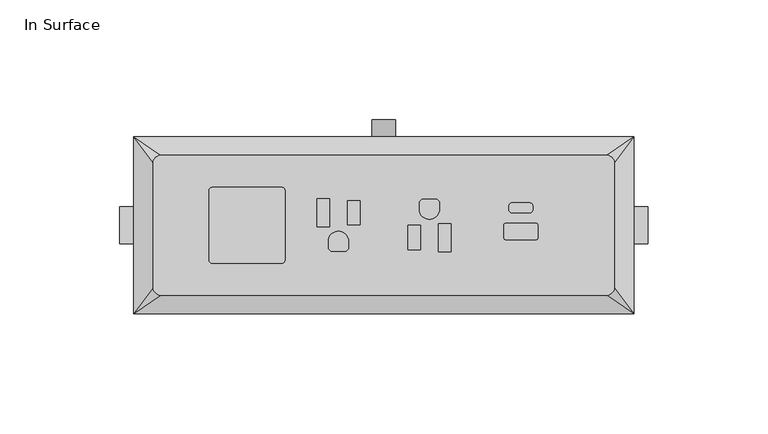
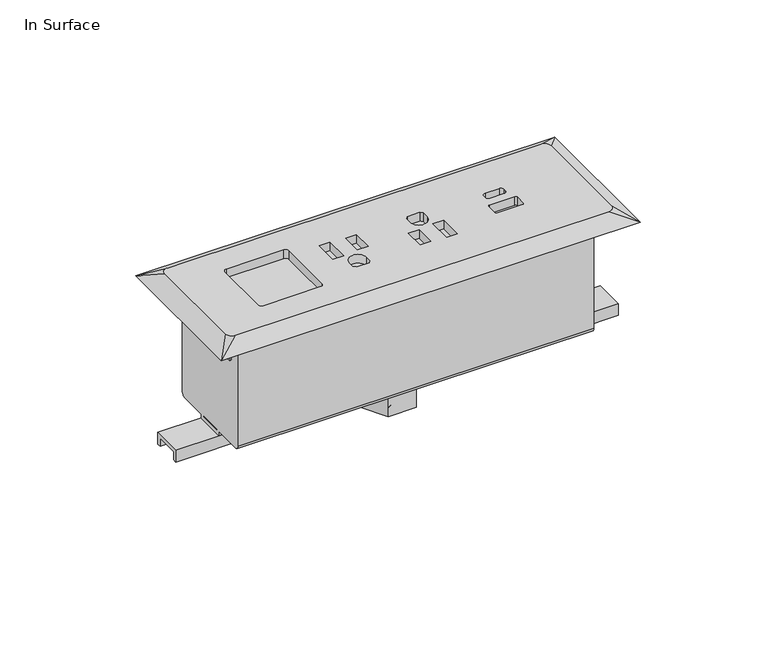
"""IFC4 building model written with IfcOpenShell, lengths in millimetres: furniture geometry, Geiger_GeigerOneCasegoods_PowerComponent2PowerOutlets1USBA1USBC : In Surface."""

from ifc_helpers import new_model, si_unit, point, frame, frame_2d, origin, origin_with_axes, place, context, project, spatial, polyline, circle_curve, ellipse_curve, trimmed, segment, composite_curve, outline, extrude, source, transform, mapped, element, save
from ifc_brep_helpers import plane_surface, cylinder_surface, revolved_surface, spline_surface, advanced_brep


def in_surface_33791ff7(model_context):
    return source(origin(), model_context, "Body", "SolidModel", [
        advanced_brep(
        [(-4.8401847, 44.0, -88.0269858), (4.8401847, 44.0, -88.0269858), (-4.8401847, 19.05, -88.0269858), (4.8401847, 19.05, -88.0269858), (-4.8401847, 0.0, -68.9769858), (4.8401847, 0.0, -68.9769858)],
        [
            (0, 1, circle_curve(frame((0.0, 44.0, -88.0269858), z_axis=(0.0, 1.0, 0.0), x_axis=(1.0, 0.0, 0.0)), 4.8401847)),
            (1, 0, circle_curve(frame((0.0, 44.0, -88.0269858), z_axis=(0.0, 1.0, 0.0), x_axis=(1.0, 0.0, 0.0)), 4.8401847)),
            (0, 2),
            (2, 3, circle_curve(frame((0.0, 19.05, -88.0269858), z_axis=(0.0, 1.0, 0.0), x_axis=(1.0, 0.0, 0.0)), 4.8401847)),
            (3, 1),
            (3, 2, circle_curve(frame((0.0, 19.05, -88.0269858), z_axis=(0.0, 1.0, 0.0), x_axis=(1.0, 0.0, 0.0)), 4.8401847)),
            (4, 5, circle_curve(frame((0.0, 0.0, -68.9769858), z_axis=(0.0, 0.0, 1.0), x_axis=(1.0, 0.0, 0.0)), 4.8401847)),
            (5, 4, circle_curve(frame((0.0, 0.0, -68.9769858), z_axis=(0.0, 0.0, 1.0), x_axis=(1.0, 0.0, 0.0)), 4.8401847)),
            (5, 3, circle_curve(frame((4.8401847, 19.05, -68.9769858), z_axis=(1.0, 0.0, 0.0), x_axis=(0.0, 0.0, -1.0)), 19.05)),
            (2, 4, circle_curve(frame((-4.8401847, 19.05, -68.9769858), z_axis=(-1.0, 0.0, 0.0), x_axis=(0.0, 0.0, -1.0)), 19.05)),
        ],
        [
            plane_surface(frame((0.0, 44.0, -88.0269858), z_axis=(0.0, 1.0, 0.0), x_axis=(1.0, 0.0, 0.0))),
            cylinder_surface(frame((0.0, 44.0, -88.0269858), z_axis=(0.0, 1.0, 0.0), x_axis=(1.0, 0.0, 0.0)), 4.8401847),
            plane_surface(frame((0.0, 0.0, -68.9769858), z_axis=(0.0, 0.0, 1.0), x_axis=(1.0, 0.0, 0.0))),
            revolved_surface(trimmed(ellipse_curve(frame((0.0, 19.05, -88.0269858), z_axis=(0.0, 1.0, 0.0), x_axis=(1.0, 0.0, 0.0)), 4.8401847, 4.8401847), [point((-4.8401847, 19.05, -88.0269858))], [point((4.8401847, 19.05, -88.0269858))], True, "CARTESIAN"), (0.0, 19.05, -68.9769858), (-1.0, 0.0, 0.0)),
            revolved_surface(trimmed(ellipse_curve(frame((0.0, 19.05, -88.0269858), z_axis=(0.0, 1.0, 0.0), x_axis=(1.0, 0.0, 0.0)), 4.8401847, 4.8401847), [point((4.8401847, 19.05, -88.0269858))], [point((-4.8401847, 19.05, -88.0269858))], True, "CARTESIAN"), (0.0, 19.05, -68.9769858), (-1.0, 0.0, 0.0)),
        ],
        [
            (0, [[1, 2]]),
            (1, [[-1, 3, 4, 5]]),
            (1, [[-2, -5, 6, -3]]),
            (2, [[7, 8]]),
            (3, [[9, -4, 10, -8]]),
            (4, [[-10, -6, -9, -7]]),
        ],
    ),
        extrude(outline(polyline([(-13.931462, 0.0), (-6.965731, 12.065), (6.965731, 12.065), (13.931462, 0.0), (6.965731, -12.065), (-6.965731, -12.065), (-13.931462, 0.0)])), frame((0.0, 0.0, -78.5519858), z_axis=(0.0, 0.0, 1.0), x_axis=(1.0, 0.0, 0.0)), (0.0, 0.0, 1.0), 18.034),
        advanced_brep(
        [(88.7222, 23.8600261, -0.8910834), (88.7222, 22.5742479, -0.8910834), (88.7222, 22.0547838, 0.0), (88.7222, -22.0547838, 0.0), (88.7222, -22.5742479, -0.8910834), (88.7222, -23.8600261, -0.8910834), (88.7222, -23.8600261, -58.4735743), (88.7222, -21.8315885, -60.5020119), (88.7222, -7.5057, -60.5020119), (88.7222, -7.5057, -62.7277858), (88.7222, 7.5057, -62.7277858), (88.7222, 7.5057, -60.5020119), (88.7222, 21.8280261, -60.5020119), (88.7222, 23.8600261, -58.4700119), (88.7222, -5.6007, -60.5020119), (88.7222, 5.6007, -60.5020119), (88.7222, 5.6007, -60.8227858), (88.7222, -5.6007, -60.8227858), (-88.7222, 23.8600261, -0.8910834), (-88.7222, 23.8600261, -58.4700119), (-88.7222, 21.8280261, -60.5020119), (-88.7222, 7.5057, -60.5020119), (-88.7222, 7.5057, -62.7277858), (-88.7222, -7.5057, -62.7277858), (-88.7222, -7.5057, -60.5020119), (-88.7222, -21.8315885, -60.5020119), (-88.7222, -23.8600261, -58.4735743), (-88.7222, -23.8600261, -0.8910834), (-88.7222, -22.5742479, -0.8910834), (-88.7222, -22.0547838, 0.0), (-88.7222, 22.0547838, 0.0), (-88.7222, 22.5742479, -0.8910834), (-88.7222, -5.6007, -60.8227858), (-88.7222, 5.6007, -60.8227858), (-88.7222, 5.6007, -60.5020119), (-88.7222, -5.6007, -60.5020119), (-69.5452, -7.5057, -60.5020119), (-69.5452, -5.6007, -60.5020119), (-69.5452, 5.6007, -60.5020119), (-69.5452, 7.5057, -60.5020119), (69.5452, 7.5057, -60.5020119), (69.5452, 5.6007, -60.5020119), (69.5452, -5.6007, -60.5020119), (69.5452, -7.5057, -60.5020119), (-69.5452, -7.5057, -62.7277858), (-69.5452, 7.5057, -62.7277858), (-69.5452, 5.6007, -60.8227858), (-69.5452, -5.6007, -60.8227858), (69.5452, -5.6007, -60.8227858), (69.5452, 5.6007, -60.8227858), (69.5452, 7.5057, -62.7277858), (69.5452, -7.5057, -62.7277858)],
        [
            (0, 1),
            (1, 2),
            (2, 3),
            (3, 4),
            (4, 5),
            (5, 6),
            (6, 7, circle_curve(frame((88.7222, -21.8315885, -58.4735743), z_axis=(1.0, 0.0, 0.0), x_axis=(0.0, -1.0, 0.0)), 2.0284377)),
            (7, 8),
            (8, 9),
            (9, 10),
            (10, 11),
            (11, 12),
            (12, 13, circle_curve(frame((88.7222, 21.8280261, -58.4700119), z_axis=(1.0, 0.0, 0.0), x_axis=(0.0, -1.0, 0.0)), 2.032)),
            (13, 0),
            (14, 15),
            (15, 16),
            (16, 17),
            (17, 14),
            (18, 19),
            (19, 20, circle_curve(frame((-88.7222, 21.8280261, -58.4700119), z_axis=(-1.0, 0.0, 0.0), x_axis=(0.0, -1.0, 0.0)), 2.032)),
            (20, 21),
            (21, 22),
            (22, 23),
            (23, 24),
            (24, 25),
            (25, 26, circle_curve(frame((-88.7222, -21.8315885, -58.4735743), z_axis=(-1.0, 0.0, 0.0), x_axis=(0.0, -1.0, 0.0)), 2.0284377)),
            (26, 27),
            (27, 28),
            (28, 29),
            (29, 30),
            (30, 31),
            (31, 18),
            (32, 33),
            (33, 34),
            (34, 35),
            (35, 32),
            (0, 18),
            (31, 1),
            (30, 2),
            (29, 3),
            (28, 4),
            (27, 5),
            (26, 6),
            (25, 7),
            (24, 36),
            (36, 37),
            (37, 35),
            (34, 38),
            (38, 39),
            (39, 21),
            (20, 12),
            (11, 40),
            (40, 41),
            (41, 15),
            (14, 42),
            (42, 43),
            (43, 8),
            (19, 13),
            (44, 45),
            (45, 39),
            (38, 46),
            (46, 47),
            (47, 37),
            (36, 44),
            (22, 45),
            (44, 23),
            (33, 46),
            (32, 47),
            (48, 49),
            (49, 41),
            (40, 50),
            (50, 51),
            (51, 43),
            (42, 48),
            (9, 51),
            (50, 10),
            (49, 16),
            (48, 17),
        ],
        [
            plane_surface(frame((88.7222, 23.8600261, -0.8910834), z_axis=(1.0, 0.0, 0.0), x_axis=(0.0, -1.0, 0.0))),
            plane_surface(frame((-88.7222, 23.8600261, -0.8910834), z_axis=(-1.0, 0.0, 0.0), x_axis=(0.0, 1.0, 0.0))),
            plane_surface(frame((88.7222, 23.8600261, -0.8910834), z_axis=(0.0, 0.0, 1.0), x_axis=(-1.0, 0.0, 0.0))),
            plane_surface(frame((88.7222, 22.5742479, -0.8910834), z_axis=(0.0, 0.8639200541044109, 0.5036289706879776), x_axis=(-1.0, 0.0, 0.0))),
            plane_surface(frame((88.7222, 22.0547838, 0.0), z_axis=(0.0, 0.0, 1.0), x_axis=(-1.0, 0.0, 0.0))),
            plane_surface(frame((88.7222, -22.0547838, 0.0), z_axis=(0.0, -0.8639200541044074, 0.5036289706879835), x_axis=(-1.0, 0.0, 0.0))),
            plane_surface(frame((88.7222, -22.5742479, -0.8910834), z_axis=(0.0, 0.0, 1.0), x_axis=(-1.0, 0.0, 0.0))),
            plane_surface(frame((88.7222, -23.8600261, -0.8910834), z_axis=(0.0, -1.0, 0.0), x_axis=(-1.0, 0.0, 0.0))),
            cylinder_surface(frame((-88.7222, -21.8315885, -58.4735743), z_axis=(1.0, 0.0, 0.0), x_axis=(0.0, -1.0, 0.0)), 2.0284377),
            plane_surface(frame((88.7222, -21.8315885, -60.5020119), z_axis=(0.0, 0.0, -1.0), x_axis=(-1.0, 0.0, 0.0))),
            cylinder_surface(frame((-88.7222, 21.8280261, -58.4700119), z_axis=(1.0, 0.0, 0.0), x_axis=(0.0, -1.0, 0.0)), 2.032),
            plane_surface(frame((88.7222, 23.8600261, -58.4700119), z_axis=(0.0, 1.0, 0.0), x_axis=(-1.0, 0.0, 0.0))),
            plane_surface(frame((-69.5452, 7.747, -62.7277858), z_axis=(1.0, 0.0, 0.0), x_axis=(0.0, 1.0, 0.0))),
            plane_surface(frame((-69.5452, -7.5057, -62.7277858), z_axis=(0.0, 0.0, -1.0), x_axis=(-1.0, 0.0, 0.0))),
            plane_surface(frame((-69.5452, 7.5057, -62.7277858), z_axis=(0.0, 1.0, 0.0), x_axis=(-1.0, 0.0, 0.0))),
            plane_surface(frame((-69.5452, 5.6007, -60.0218921), z_axis=(0.0, -1.0, 0.0), x_axis=(-1.0, 0.0, 0.0))),
            plane_surface(frame((-69.5452, 5.6007, -60.8227858), z_axis=(0.0, 0.0, 1.0), x_axis=(-1.0, 0.0, 0.0))),
            plane_surface(frame((-69.5452, -5.6007, -60.8227858), z_axis=(0.0, 1.0, 0.0), x_axis=(-1.0, 0.0, 0.0))),
            plane_surface(frame((-69.5452, -7.5057, -60.0218921), z_axis=(0.0, -1.0, 0.0), x_axis=(-1.0, 0.0, 0.0))),
            plane_surface(frame((69.5452, -7.5057, -58.3589858), z_axis=(-1.0, 0.0, 0.0), x_axis=(0.0, 0.0, 1.0))),
            plane_surface(frame((69.5452, 7.5057, -62.7277858), z_axis=(0.0, 0.0, -1.0), x_axis=(1.0, 0.0, 0.0))),
            plane_surface(frame((69.5452, 7.5057, -60.0218921), z_axis=(0.0, 1.0, 0.0), x_axis=(1.0, 0.0, 0.0))),
            plane_surface(frame((69.5452, 5.6007, -60.8227858), z_axis=(0.0, -1.0, 0.0), x_axis=(1.0, 0.0, 0.0))),
            plane_surface(frame((69.5452, -5.6007, -60.8227858), z_axis=(0.0, 0.0, 1.0), x_axis=(1.0, 0.0, 0.0))),
            plane_surface(frame((69.5452, -5.6007, -60.0218921), z_axis=(0.0, 1.0, 0.0), x_axis=(1.0, 0.0, 0.0))),
            plane_surface(frame((69.5452, -7.5057, -62.7277858), z_axis=(0.0, -1.0, 0.0), x_axis=(1.0, 0.0, 0.0))),
        ],
        [
            (0, [[1, 2, 3, 4, 5, 6, 7, 8, 9, 10, 11, 12, 13, 14], [15, 16, 17, 18]]),
            (1, [[19, 20, 21, 22, 23, 24, 25, 26, 27, 28, 29, 30, 31, 32], [33, 34, 35, 36]]),
            (2, [[-1, 37, -32, 38]]),
            (3, [[-2, -38, -31, 39]]),
            (4, [[-3, -39, -30, 40]]),
            (5, [[-4, -40, -29, 41]]),
            (6, [[-5, -41, -28, 42]]),
            (7, [[-6, -42, -27, 43]]),
            (8, [[-7, -43, -26, 44]]),
            (9, [[-44, -25, 45, 46, 47, -35, 48, 49, 50, -21, 51, -12, 52, 53, 54, -15, 55, 56, 57, -8]]),
            (10, [[-13, -51, -20, 58]]),
            (11, [[-14, -58, -19, -37]]),
            (12, [[59, 60, -49, 61, 62, 63, -46, 64]]),
            (13, [[-23, 65, -59, 66]]),
            (14, [[-65, -22, -50, -60]]),
            (15, [[67, -61, -48, -34]]),
            (16, [[-33, 68, -62, -67]]),
            (17, [[-68, -36, -47, -63]]),
            (18, [[-66, -64, -45, -24]]),
            (19, [[69, 70, -53, 71, 72, 73, -56, 74]]),
            (20, [[-10, 75, -72, 76]]),
            (21, [[-76, -71, -52, -11]]),
            (22, [[77, -16, -54, -70]]),
            (23, [[-17, -77, -69, 78]]),
            (24, [[-78, -74, -55, -18]]),
            (25, [[-75, -9, -57, -73]]),
        ],
    ),
        extrude(outline(polyline([(7.747, -68.9507858), (5.842, -68.9507858), (5.842, -64.6327858), (-5.842, -64.6327858), (-5.842, -68.9507858), (-7.747, -68.9507858), (-7.747, -62.7277858), (7.747, -62.7277858), (7.747, -68.9507858)])), frame((69.5452, 0.0, 0.0), z_axis=(1.0, 0.0, 0.0), x_axis=(0.0, 1.0, 0.0)), (0.0, 0.0, 1.0), 40.7162),
        extrude(outline(polyline([(7.747, -68.9507858), (5.842, -68.9507858), (5.842, -64.6327858), (-5.842, -64.6327858), (-5.842, -68.9507858), (-7.747, -68.9507858), (-7.747, -62.7277858), (7.747, -62.7277858), (7.747, -68.9507858)])), frame((-110.2614, 0.0, 0.0), z_axis=(1.0, 0.0, 0.0), x_axis=(0.0, 1.0, 0.0)), (0.0, 0.0, 1.0), 40.7162),
        extrude(outline(polyline([(89.9015496, 19.05), (89.9015496, -19.05), (88.7222, -19.05), (88.7222, 19.05), (89.9015496, 19.05)])), frame((0.0, 0.0, -15.8489981), z_axis=(0.0, 0.0, 1.0), x_axis=(1.0, 0.0, 0.0)), (0.0, 0.0, 1.0), 15.8489981),
        extrude(outline(polyline([(-89.9015496, -19.05), (-89.9015496, 19.05), (-88.7222, 19.05), (-88.7222, -19.05), (-89.9015496, -19.05)])), frame((0.0, 0.0, -15.8489981), z_axis=(0.0, 0.0, 1.0), x_axis=(1.0, 0.0, 0.0)), (0.0, 0.0, 1.0), 15.8489981),
        advanced_brep(
        [(96.2787, 26.035, 4.8529008), (93.1037, 29.21, 4.8529008), (-93.1037, 29.21, 4.8529008), (-96.2787, 26.035, 4.8529008), (-96.2787, -26.035, 4.8529008), (-93.1037, -29.21, 4.8529008), (93.1037, -29.21, 4.8529008), (96.2787, -26.035, 4.8529008), (-42.77496, 15.8495153, 4.8529008), (-41.25096, 14.3255153, 4.8529008), (-41.25096, -14.3764847, 4.8529008), (-42.77496, -15.9004847, 4.8529008), (-71.47696, -15.9004847, 4.8529008), (-73.00096, -14.3764847, 4.8529008), (-73.00096, 14.3333312, 4.8529008), (-71.4847758, 15.8495153, 4.8529008), (-27.9323695, 11.0794695, 4.8529008), (-22.6136305, 11.0794695, 4.8529008), (-22.6136305, -0.7162695, 4.8529008), (-27.9323695, -0.7162695, 4.8529008), (-15.2323695, 10.2539695, 4.8529008), (-9.9154429, 10.2539695, 4.8529008), (-9.9154429, 0.1092305, 4.8529008), (-15.2323695, 0.1092305, 4.8529008), (-23.1571691, -6.7045859, 4.8529008), (-14.6888305, -6.7045863, 4.8529008), (-14.6888305, -9.8074379, 4.8529008), (-15.8211621, -10.9397695, 4.8529008), (-22.0248379, -10.9397695, 4.8529008), (-23.1571695, -9.8074379, 4.8529008), (10.0678429, -0.1092305, 4.8529008), (15.3847695, -0.1092305, 4.8529008), (15.3847695, -10.2539695, 4.8529008), (10.0678429, -10.2539695, 4.8529008), (22.7660305, 0.7162695, 4.8529008), (28.0847695, 0.7162695, 4.8529008), (28.0847695, -11.0794695, 4.8529008), (22.7660305, -11.0794695, 4.8529008), (14.8389662, 9.8074379, 4.8529008), (15.9712978, 10.9397695, 4.8529008), (22.1749736, 10.9397695, 4.8529008), (23.3073051, 9.8074379, 4.8529008), (23.3073048, 6.7045859, 4.8529008), (14.8389662, 6.7045863, 4.8529008), (53.6958283, 5.1542876, 4.8529008), (52.2480283, 6.6020876, 4.8529008), (52.2480283, 7.8720876, 4.8529008), (53.6958283, 9.3198876, 4.8529008), (60.8055164, 9.3198876, 4.8529008), (62.2556283, 7.8697757, 4.8529008), (62.2556283, 6.6013722, 4.8529008), (60.8085437, 5.1542876, 4.8529008), (63.6026274, 0.7610628, 4.8529008), (64.3129141, 0.050776, 4.8529008), (64.3129141, -5.2638172, 4.8529008), (63.6017141, -5.9750172, 4.8529008), (50.9017141, -5.9750172, 4.8529008), (50.1905141, -5.2638172, 4.8529008), (50.1905141, 0.0498628, 4.8529008), (50.9017141, 0.7610628, 4.8529008), (104.3952174, 36.9450555, 0.0), (104.3952174, -36.9450555, 0.0), (-104.3952174, -36.9450555, 0.0), (-104.3952174, 36.9450555, 0.0), (-41.25096, 14.3255153, 0.0), (-42.77496, 15.8495153, 0.0), (-71.4847758, 15.8495153, 0.0), (-73.00096, 14.3333312, 0.0), (-73.00096, -14.3764847, 0.0), (-71.47696, -15.9004847, 0.0), (-42.77496, -15.9004847, 0.0), (-41.25096, -14.3764847, 0.0), (-22.6136305, 11.0794695, 0.0), (-27.9323695, 11.0794695, 0.0), (-27.9323695, -0.7162695, 0.0), (-22.6136305, -0.7162695, 0.0), (-9.9154429, 10.2539695, 0.0), (-15.2323695, 10.2539695, 0.0), (-15.2323695, 0.1092305, 0.0), (-9.9154429, 0.1092305, 0.0), (-14.6888305, -6.7045863, 0.0), (-23.1571691, -6.7045859, 0.0), (-23.1571695, -9.8074379, 0.0), (-22.0248379, -10.9397695, 0.0), (-15.8211621, -10.9397695, 0.0), (-14.6888305, -9.8074379, 0.0), (15.3847695, -0.1092305, 0.0), (10.0678429, -0.1092305, 0.0), (10.0678429, -10.2539695, 0.0), (15.3847695, -10.2539695, 0.0), (28.0847695, 0.7162695, 0.0), (22.7660305, 0.7162695, 0.0), (22.7660305, -11.0794695, 0.0), (28.0847695, -11.0794695, 0.0), (15.9712978, 10.9397695, 0.0), (14.8389662, 9.8074379, 0.0), (14.8389662, 6.7045863, 0.0), (23.3073048, 6.7045859, 0.0), (23.3073051, 9.8074379, 0.0), (22.1749736, 10.9397695, 0.0), (52.2480283, 6.6020876, 0.0), (53.6958283, 5.1542876, 0.0), (60.8085437, 5.1542876, 0.0), (62.2556283, 6.6013722, 0.0), (62.2556283, 7.8697757, 0.0), (60.8055164, 9.3198876, 0.0), (53.6958283, 9.3198876, 0.0), (52.2480283, 7.8720876, 0.0), (64.3129141, 0.050776, 0.0), (63.6026274, 0.7610628, 0.0), (50.9017141, 0.7610628, 0.0), (50.1905141, 0.0498628, 0.0), (50.1905141, -5.2638172, 0.0), (50.9017141, -5.9750172, 0.0), (63.6017141, -5.9750172, 0.0), (64.3129141, -5.2638172, 0.0)],
        [
            (0, 1, circle_curve(frame((93.1037, 26.035, 4.8529008), z_axis=(0.0, 0.0, 1.0), x_axis=(1.0, 0.0, 0.0)), 3.175)),
            (1, 2),
            (2, 3, circle_curve(frame((-93.1037, 26.035, 4.8529008), z_axis=(0.0, 0.0, 1.0), x_axis=(1.0, 0.0, 0.0)), 3.175)),
            (3, 4),
            (4, 5, circle_curve(frame((-93.1037, -26.035, 4.8529008), z_axis=(0.0, 0.0, 1.0), x_axis=(1.0, 0.0, 0.0)), 3.175)),
            (5, 6),
            (6, 7, circle_curve(frame((93.1037, -26.035, 4.8529008), z_axis=(0.0, 0.0, 1.0), x_axis=(1.0, 0.0, 0.0)), 3.175)),
            (7, 0),
            (8, 9, circle_curve(frame((-42.77496, 14.3255153, 4.8529008), z_axis=(0.0, 0.0, -1.0), x_axis=(1.0, 0.0, 0.0)), 1.524)),
            (9, 10),
            (10, 11, circle_curve(frame((-42.77496, -14.3764847, 4.8529008), z_axis=(0.0, 0.0, -1.0), x_axis=(1.0, 0.0, 0.0)), 1.524)),
            (11, 12),
            (12, 13, circle_curve(frame((-71.47696, -14.3764847, 4.8529008), z_axis=(0.0, 0.0, -1.0), x_axis=(1.0, 0.0, 0.0)), 1.524)),
            (13, 14),
            (14, 15, circle_curve(frame((-71.4847758, 14.3333312, 4.8529008), z_axis=(0.0, 0.0, -1.0), x_axis=(1.0, 0.0, 0.0)), 1.5161841)),
            (15, 8),
            (16, 17),
            (17, 18),
            (18, 19),
            (19, 16),
            (20, 21),
            (21, 22),
            (22, 23),
            (23, 20),
            (24, 25, circle_curve(frame((-18.9229998, -6.7045863, 4.8529008), z_axis=(0.0, 0.0, -1.0), x_axis=(1.0, 0.0, 0.0)), 4.2341693)),
            (25, 26),
            (26, 27),
            (27, 28),
            (28, 29),
            (29, 24),
            (30, 31),
            (31, 32),
            (32, 33),
            (33, 30),
            (34, 35),
            (35, 36),
            (36, 37),
            (37, 34),
            (38, 39),
            (39, 40),
            (40, 41),
            (41, 42),
            (42, 43, circle_curve(frame((19.0731355, 6.7045863, 4.8529008), z_axis=(0.0, 0.0, -1.0), x_axis=(-1.0, 0.0, 0.0)), 4.2341693)),
            (43, 38),
            (44, 45, circle_curve(frame((53.6958283, 6.6020876, 4.8529008), z_axis=(0.0, 0.0, -1.0), x_axis=(1.0, 0.0, 0.0)), 1.4478)),
            (45, 46),
            (46, 47, circle_curve(frame((53.6958283, 7.8720876, 4.8529008), z_axis=(0.0, 0.0, -1.0), x_axis=(1.0, 0.0, 0.0)), 1.4478)),
            (47, 48),
            (48, 49, circle_curve(frame((60.8055164, 7.8697757, 4.8529008), z_axis=(0.0, 0.0, -1.0), x_axis=(1.0, 0.0, 0.0)), 1.4501118)),
            (49, 50),
            (50, 51, circle_curve(frame((60.8085437, 6.6013722, 4.8529008), z_axis=(0.0, 0.0, -1.0), x_axis=(1.0, 0.0, 0.0)), 1.4470846)),
            (51, 44),
            (52, 53, circle_curve(frame((63.6026274, 0.050776, 4.8529008), z_axis=(0.0, 0.0, -1.0), x_axis=(1.0, 0.0, 0.0)), 0.7102868)),
            (53, 54),
            (54, 55, circle_curve(frame((63.6017141, -5.2638172, 4.8529008), z_axis=(0.0, 0.0, -1.0), x_axis=(1.0, 0.0, 0.0)), 0.7112)),
            (55, 56),
            (56, 57, circle_curve(frame((50.9017141, -5.2638172, 4.8529008), z_axis=(0.0, 0.0, -1.0), x_axis=(1.0, 0.0, 0.0)), 0.7112)),
            (57, 58),
            (58, 59, circle_curve(frame((50.9017141, 0.0498628, 4.8529008), z_axis=(0.0, 0.0, -1.0), x_axis=(1.0, 0.0, 0.0)), 0.7112)),
            (59, 52),
            (60, 61),
            (61, 62),
            (62, 63),
            (63, 60),
            (64, 65, circle_curve(frame((-42.77496, 14.3255153, 0.0), z_axis=(0.0, 0.0, 1.0), x_axis=(1.0, 0.0, 0.0)), 1.524)),
            (65, 66),
            (66, 67, circle_curve(frame((-71.4847758, 14.3333312, 0.0), z_axis=(0.0, 0.0, 1.0), x_axis=(1.0, 0.0, 0.0)), 1.5161841)),
            (67, 68),
            (68, 69, circle_curve(frame((-71.47696, -14.3764847, 0.0), z_axis=(0.0, 0.0, 1.0), x_axis=(1.0, 0.0, 0.0)), 1.524)),
            (69, 70),
            (70, 71, circle_curve(frame((-42.77496, -14.3764847, 0.0), z_axis=(0.0, 0.0, 1.0), x_axis=(1.0, 0.0, 0.0)), 1.524)),
            (71, 64),
            (72, 73),
            (73, 74),
            (74, 75),
            (75, 72),
            (76, 77),
            (77, 78),
            (78, 79),
            (79, 76),
            (80, 81, circle_curve(frame((-18.9229998, -6.7045863, 0.0), z_axis=(0.0, 0.0, 1.0), x_axis=(1.0, 0.0, 0.0)), 4.2341693)),
            (81, 82),
            (82, 83),
            (83, 84),
            (84, 85),
            (85, 80),
            (86, 87),
            (87, 88),
            (88, 89),
            (89, 86),
            (90, 91),
            (91, 92),
            (92, 93),
            (93, 90),
            (94, 95),
            (95, 96),
            (96, 97, circle_curve(frame((19.0731355, 6.7045863, 0.0), z_axis=(0.0, 0.0, 1.0), x_axis=(-1.0, 0.0, 0.0)), 4.2341693)),
            (97, 98),
            (98, 99),
            (99, 94),
            (100, 101, circle_curve(frame((53.6958283, 6.6020876, 0.0), z_axis=(0.0, 0.0, 1.0), x_axis=(1.0, 0.0, 0.0)), 1.4478)),
            (101, 102),
            (102, 103, circle_curve(frame((60.8085437, 6.6013722, 0.0), z_axis=(0.0, 0.0, 1.0), x_axis=(1.0, 0.0, 0.0)), 1.4470846)),
            (103, 104),
            (104, 105, circle_curve(frame((60.8055164, 7.8697757, 0.0), z_axis=(0.0, 0.0, 1.0), x_axis=(1.0, 0.0, 0.0)), 1.4501118)),
            (105, 106),
            (106, 107, circle_curve(frame((53.6958283, 7.8720876, 0.0), z_axis=(0.0, 0.0, 1.0), x_axis=(1.0, 0.0, 0.0)), 1.4478)),
            (107, 100),
            (108, 109, circle_curve(frame((63.6026274, 0.050776, 0.0), z_axis=(0.0, 0.0, 1.0), x_axis=(1.0, 0.0, 0.0)), 0.7102868)),
            (109, 110),
            (110, 111, circle_curve(frame((50.9017141, 0.0498628, 0.0), z_axis=(0.0, 0.0, 1.0), x_axis=(1.0, 0.0, 0.0)), 0.7112)),
            (111, 112),
            (112, 113, circle_curve(frame((50.9017141, -5.2638172, 0.0), z_axis=(0.0, 0.0, 1.0), x_axis=(1.0, 0.0, 0.0)), 0.7112)),
            (113, 114),
            (114, 115, circle_curve(frame((63.6017141, -5.2638172, 0.0), z_axis=(0.0, 0.0, 1.0), x_axis=(1.0, 0.0, 0.0)), 0.7112)),
            (115, 108),
            (0, 60),
            (60, 1),
            (63, 2),
            (63, 3),
            (62, 4),
            (62, 5),
            (61, 6),
            (61, 7),
            (64, 9),
            (8, 65),
            (71, 10),
            (70, 11),
            (69, 12),
            (68, 13),
            (67, 14),
            (66, 15),
            (72, 17),
            (16, 73),
            (75, 18),
            (74, 19),
            (76, 21),
            (20, 77),
            (79, 22),
            (78, 23),
            (80, 25),
            (24, 81),
            (85, 26),
            (84, 27),
            (83, 28),
            (82, 29),
            (86, 31),
            (30, 87),
            (89, 32),
            (88, 33),
            (90, 35),
            (34, 91),
            (93, 36),
            (92, 37),
            (94, 39),
            (38, 95),
            (99, 40),
            (98, 41),
            (97, 42),
            (96, 43),
            (100, 45),
            (44, 101),
            (107, 46),
            (106, 47),
            (105, 48),
            (104, 49),
            (103, 50),
            (102, 51),
            (108, 53),
            (52, 109),
            (115, 54),
            (114, 55),
            (113, 56),
            (112, 57),
            (111, 58),
            (110, 59),
        ],
        [
            plane_surface(frame((0.0, 0.0, 4.8529008), z_axis=(0.0, 0.0, 1.0), x_axis=(-1.0, 0.0, 0.0))),
            plane_surface(frame((0.0, 0.0, 0.0), z_axis=(0.0, 0.0, -1.0), x_axis=(-1.0, 0.0, 0.0))),
            spline_surface(2, 1, [[(104.3952174, 36.9450555, 0.0), (96.2787, 26.035, 4.8529008)], [(104.3952174, 36.9450555, 0.0), (96.2787, 29.209999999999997, 4.8529008)], [(104.3952174, 36.9450555, 0.0), (93.1037, 29.21, 4.8529008)]], [3, 3], [2, 2], [0.0, 1.0], [0.0, 1.0], weights=[[1.0, 1.0], [0.7071067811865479, 0.7071067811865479], [1.0, 1.0]]),
            plane_surface(frame((0.0, 36.9450555, 0.0), z_axis=(0.0, 0.5314543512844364, 0.8470869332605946), x_axis=(-1.0, 0.0, 0.0))),
            spline_surface(2, 1, [[(-104.3952174, 36.9450555, 0.0), (-93.1037, 29.21, 4.8529008)], [(-104.3952174, 36.9450555, 0.0), (-96.2787, 29.210000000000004, 4.8529008)], [(-104.3952174, 36.9450555, 0.0), (-96.2787, 26.035, 4.8529008)]], [3, 3], [2, 2], [0.0, 1.0], [0.0, 1.0], weights=[[1.0, 1.0], [0.7071067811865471, 0.7071067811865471], [1.0, 1.0]]),
            plane_surface(frame((-104.3952174, 0.0, 0.0), z_axis=(-0.5131725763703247, 0.0, 0.8582854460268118), x_axis=(0.0, -1.0, 0.0))),
            spline_surface(2, 1, [[(-104.3952174, -36.9450555, 0.0), (-96.2787, -26.035, 4.8529008)], [(-104.3952174, -36.9450555, 0.0), (-96.2787, -29.209999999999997, 4.8529008)], [(-104.3952174, -36.9450555, 0.0), (-93.1037, -29.21, 4.8529008)]], [3, 3], [2, 2], [0.0, 1.0], [0.0, 1.0], weights=[[1.0, 1.0], [0.7071067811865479, 0.7071067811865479], [1.0, 1.0]]),
            plane_surface(frame((0.0, -36.9450555, 0.0), z_axis=(0.0, -0.5314543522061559, 0.8470869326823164), x_axis=(1.0, 0.0, 0.0))),
            spline_surface(2, 1, [[(104.3952174, -36.9450555, 0.0), (93.1037, -29.21, 4.8529008)], [(104.3952174, -36.9450555, 0.0), (96.2787, -29.210000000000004, 4.8529008)], [(104.3952174, -36.9450555, 0.0), (96.2787, -26.035, 4.8529008)]], [3, 3], [2, 2], [0.0, 1.0], [0.0, 1.0], weights=[[1.0, 1.0], [0.7071067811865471, 0.7071067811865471], [1.0, 1.0]]),
            plane_surface(frame((104.3952174, 0.0, 0.0), z_axis=(0.5131725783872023, 0.0, 0.8582854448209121), x_axis=(0.0, 1.0, 0.0))),
            revolved_surface(polyline([(-41.25096, 14.3255153, 0.0), (-41.25096, 14.3255153, 4.8529008)]), (-42.77496, 14.3255153, 4.8529008), (0.0, 0.0, -1.0)),
            plane_surface(frame((-41.25096, 14.3255153, 0.0), z_axis=(-1.0, 0.0, 0.0), x_axis=(0.0, 0.0, 1.0))),
            revolved_surface(polyline([(-41.25096, -14.3764847, 0.0), (-41.25096, -14.3764847, 4.8529008)]), (-42.77496, -14.3764847, 4.8529008), (0.0, 0.0, -1.0)),
            plane_surface(frame((-42.77496, -15.9004847, 0.0), z_axis=(0.0, 1.0, 0.0), x_axis=(0.0, 0.0, 1.0))),
            revolved_surface(polyline([(-69.95296, -14.3764847, 0.0), (-69.95296, -14.3764847, 4.8529008)]), (-71.47696, -14.3764847, 4.8529008), (0.0, 0.0, -1.0)),
            plane_surface(frame((-73.00096, -14.3764847, 0.0), z_axis=(1.0, 0.0, 0.0), x_axis=(0.0, 0.0, 1.0))),
            revolved_surface(polyline([(-69.96859169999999, 14.3333312, 0.0), (-69.96859169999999, 14.3333312, 4.8529008)]), (-71.4847758, 14.3333312, 4.8529008), (0.0, 0.0, -1.0)),
            plane_surface(frame((-71.4847758, 15.8495153, 0.0), z_axis=(0.0, -1.0, 0.0), x_axis=(0.0, 0.0, 1.0))),
            plane_surface(frame((-27.9323695, 11.0794695, 0.0), z_axis=(0.0, -1.0, 0.0), x_axis=(0.0, 0.0, 1.0))),
            plane_surface(frame((-22.6136305, 11.0794695, 0.0), z_axis=(-1.0, 0.0, 0.0), x_axis=(0.0, 0.0, 1.0))),
            plane_surface(frame((-22.6136305, -0.7162695, 0.0), z_axis=(0.0, 1.0, 0.0), x_axis=(0.0, 0.0, 1.0))),
            plane_surface(frame((-27.9323695, -0.7162695, 0.0), z_axis=(1.0, 0.0, 0.0), x_axis=(0.0, 0.0, 1.0))),
            plane_surface(frame((-15.2323695, 10.2539695, 0.0), z_axis=(0.0, -1.0, 0.0), x_axis=(0.0, 0.0, 1.0))),
            plane_surface(frame((-9.9154429, 10.2539695, 0.0), z_axis=(-1.0, 0.0, 0.0), x_axis=(0.0, 0.0, 1.0))),
            plane_surface(frame((-9.9154429, 0.1092305, 0.0), z_axis=(0.0, 1.0, 0.0), x_axis=(0.0, 0.0, 1.0))),
            plane_surface(frame((-15.2323695, 0.1092305, 0.0), z_axis=(1.0, 0.0, 0.0), x_axis=(0.0, 0.0, 1.0))),
            revolved_surface(polyline([(-14.6888305, -6.7045863, 0.0), (-14.6888305, -6.7045863, 4.8529008)]), (-18.9229998, -6.7045863, 4.8529008), (0.0, 0.0, -1.0)),
            plane_surface(frame((-14.6888305, -6.7045863, 0.0), z_axis=(-1.0, 0.0, 0.0), x_axis=(0.0, 0.0, 1.0))),
            plane_surface(frame((-14.6888305, -9.8074379, 0.0), z_axis=(-0.7071067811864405, 0.7071067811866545, 0.0), x_axis=(0.0, 0.0, 1.0))),
            plane_surface(frame((-15.8211621, -10.9397695, 0.0), z_axis=(0.0, 1.0, 0.0), x_axis=(0.0, 0.0, 1.0))),
            plane_surface(frame((-22.0248379, -10.9397695, 0.0), z_axis=(0.7071067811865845, 0.7071067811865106, 0.0), x_axis=(0.0, 0.0, 1.0))),
            plane_surface(frame((-23.1571695, -9.8074379, 0.0), z_axis=(0.9999999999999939, -1.1048249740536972e-07, 0.0), x_axis=(0.0, 0.0, 1.0))),
            plane_surface(frame((10.0678429, -0.1092305, 0.0), z_axis=(0.0, -1.0, 0.0), x_axis=(0.0, 0.0, 1.0))),
            plane_surface(frame((15.3847695, -0.1092305, 0.0), z_axis=(-1.0, 0.0, 0.0), x_axis=(0.0, 0.0, 1.0))),
            plane_surface(frame((15.3847695, -10.2539695, 0.0), z_axis=(0.0, 1.0, 0.0), x_axis=(0.0, 0.0, 1.0))),
            plane_surface(frame((10.0678429, -10.2539695, 0.0), z_axis=(1.0, 0.0, 0.0), x_axis=(0.0, 0.0, 1.0))),
            plane_surface(frame((22.7660305, 0.7162695, 0.0), z_axis=(0.0, -1.0, 0.0), x_axis=(0.0, 0.0, 1.0))),
            plane_surface(frame((28.0847695, 0.7162695, 0.0), z_axis=(-1.0, 0.0, 0.0), x_axis=(0.0, 0.0, 1.0))),
            plane_surface(frame((28.0847695, -11.0794695, 0.0), z_axis=(0.0, 1.0, 0.0), x_axis=(0.0, 0.0, 1.0))),
            plane_surface(frame((22.7660305, -11.0794695, 0.0), z_axis=(1.0, 0.0, 0.0), x_axis=(0.0, 0.0, 1.0))),
            plane_surface(frame((14.8389662, 9.8074379, 0.0), z_axis=(0.7071067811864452, -0.7071067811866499, 0.0), x_axis=(0.0, 0.0, 1.0))),
            plane_surface(frame((15.9712978, 10.9397695, 0.0), z_axis=(0.0, -1.0, 0.0), x_axis=(0.0, 0.0, 1.0))),
            plane_surface(frame((22.1749736, 10.9397695, 0.0), z_axis=(-0.7071067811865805, -0.7071067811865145, 0.0), x_axis=(0.0, 0.0, 1.0))),
            plane_surface(frame((23.3073051, 9.8074379, 0.0), z_axis=(-0.9999999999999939, 1.1048249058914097e-07, 0.0), x_axis=(0.0, 0.0, 1.0))),
            revolved_surface(polyline([(14.8389662, 6.7045863, 0.0), (14.8389662, 6.7045863, 4.8529008)]), (19.0731355, 6.7045863, 4.8529008), (0.0, 0.0, -1.0)),
            plane_surface(frame((14.8389662, 6.7045863, 0.0), z_axis=(1.0, 0.0, 0.0), x_axis=(0.0, 0.0, 1.0))),
            revolved_surface(polyline([(55.1436283, 6.6020876, 0.0), (55.1436283, 6.6020876, 4.8529008)]), (53.6958283, 6.6020876, 4.8529008), (0.0, 0.0, -1.0)),
            plane_surface(frame((52.2480283, 6.6020876, 0.0), z_axis=(1.0, 0.0, 0.0), x_axis=(0.0, 0.0, 1.0))),
            revolved_surface(polyline([(55.1436283, 7.8720876, 0.0), (55.1436283, 7.8720876, 4.8529008)]), (53.6958283, 7.8720876, 4.8529008), (0.0, 0.0, -1.0)),
            plane_surface(frame((53.6958283, 9.3198876, 0.0), z_axis=(0.0, -1.0, 0.0), x_axis=(0.0, 0.0, 1.0))),
            revolved_surface(polyline([(62.255628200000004, 7.8697757, 0.0), (62.255628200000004, 7.8697757, 4.8529008)]), (60.8055164, 7.8697757, 4.8529008), (0.0, 0.0, -1.0)),
            plane_surface(frame((62.2556283, 7.8697757, 0.0), z_axis=(-1.0, 0.0, 0.0), x_axis=(0.0, 0.0, 1.0))),
            revolved_surface(polyline([(62.2556283, 6.6013722, 0.0), (62.2556283, 6.6013722, 4.8529008)]), (60.8085437, 6.6013722, 4.8529008), (0.0, 0.0, -1.0)),
            plane_surface(frame((60.8085437, 5.1542876, 0.0), z_axis=(0.0, 1.0, 0.0), x_axis=(0.0, 0.0, 1.0))),
            revolved_surface(polyline([(64.31291420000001, 0.050776, 0.0), (64.31291420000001, 0.050776, 4.8529008)]), (63.6026274, 0.050776, 4.8529008), (0.0, 0.0, -1.0)),
            plane_surface(frame((64.3129141, 0.050776, 0.0), z_axis=(-1.0, 0.0, 0.0), x_axis=(0.0, 0.0, 1.0))),
            revolved_surface(polyline([(64.3129141, -5.2638172, 0.0), (64.3129141, -5.2638172, 4.8529008)]), (63.6017141, -5.2638172, 4.8529008), (0.0, 0.0, -1.0)),
            plane_surface(frame((63.6017141, -5.9750172, 0.0), z_axis=(0.0, 1.0, 0.0), x_axis=(0.0, 0.0, 1.0))),
            revolved_surface(polyline([(51.6129141, -5.2638172, 0.0), (51.6129141, -5.2638172, 4.8529008)]), (50.9017141, -5.2638172, 4.8529008), (0.0, 0.0, -1.0)),
            plane_surface(frame((50.1905141, -5.2638172, 0.0), z_axis=(1.0, 0.0, 0.0), x_axis=(0.0, 0.0, 1.0))),
            revolved_surface(polyline([(51.6129141, 0.0498628, 0.0), (51.6129141, 0.0498628, 4.8529008)]), (50.9017141, 0.0498628, 4.8529008), (0.0, 0.0, -1.0)),
            plane_surface(frame((50.9017141, 0.7610628, 0.0), z_axis=(0.0, -1.0, 0.0), x_axis=(0.0, 0.0, 1.0))),
        ],
        [
            (0, [[1, 2, 3, 4, 5, 6, 7, 8], [9, 10, 11, 12, 13, 14, 15, 16], [17, 18, 19, 20], [21, 22, 23, 24], [25, 26, 27, 28, 29, 30], [31, 32, 33, 34], [35, 36, 37, 38], [39, 40, 41, 42, 43, 44], [45, 46, 47, 48, 49, 50, 51, 52], [53, 54, 55, 56, 57, 58, 59, 60]]),
            (1, [[61, 62, 63, 64], [65, 66, 67, 68, 69, 70, 71, 72], [73, 74, 75, 76], [77, 78, 79, 80], [81, 82, 83, 84, 85, 86], [87, 88, 89, 90], [91, 92, 93, 94], [95, 96, 97, 98, 99, 100], [101, 102, 103, 104, 105, 106, 107, 108], [109, 110, 111, 112, 113, 114, 115, 116]]),
            (2, [[-1, 117, 118]]),
            (3, [[-2, -118, -64, 119]]),
            (4, [[-3, -119, 120]]),
            (5, [[-4, -120, -63, 121]]),
            (6, [[-5, -121, 122]]),
            (7, [[-6, -122, -62, 123]]),
            (8, [[-7, -123, 124]]),
            (9, [[-8, -124, -61, -117]]),
            (10, [[125, -9, 126, -65]]),
            (11, [[-125, -72, 127, -10]]),
            (12, [[-127, -71, 128, -11]]),
            (13, [[-128, -70, 129, -12]]),
            (14, [[-129, -69, 130, -13]]),
            (15, [[-130, -68, 131, -14]]),
            (16, [[-131, -67, 132, -15]]),
            (17, [[-126, -16, -132, -66]]),
            (18, [[133, -17, 134, -73]]),
            (19, [[-133, -76, 135, -18]]),
            (20, [[-135, -75, 136, -19]]),
            (21, [[-134, -20, -136, -74]]),
            (22, [[137, -21, 138, -77]]),
            (23, [[-137, -80, 139, -22]]),
            (24, [[-139, -79, 140, -23]]),
            (25, [[-138, -24, -140, -78]]),
            (26, [[141, -25, 142, -81]]),
            (27, [[-141, -86, 143, -26]]),
            (28, [[-143, -85, 144, -27]]),
            (29, [[-144, -84, 145, -28]]),
            (30, [[-145, -83, 146, -29]]),
            (31, [[-142, -30, -146, -82]]),
            (32, [[147, -31, 148, -87]]),
            (33, [[-147, -90, 149, -32]]),
            (34, [[-149, -89, 150, -33]]),
            (35, [[-148, -34, -150, -88]]),
            (36, [[151, -35, 152, -91]]),
            (37, [[-151, -94, 153, -36]]),
            (38, [[-153, -93, 154, -37]]),
            (39, [[-152, -38, -154, -92]]),
            (40, [[155, -39, 156, -95]]),
            (41, [[-155, -100, 157, -40]]),
            (42, [[-157, -99, 158, -41]]),
            (43, [[-158, -98, 159, -42]]),
            (44, [[-159, -97, 160, -43]]),
            (45, [[-156, -44, -160, -96]]),
            (46, [[161, -45, 162, -101]]),
            (47, [[-161, -108, 163, -46]]),
            (48, [[-163, -107, 164, -47]]),
            (49, [[-164, -106, 165, -48]]),
            (50, [[-165, -105, 166, -49]]),
            (51, [[-166, -104, 167, -50]]),
            (52, [[-167, -103, 168, -51]]),
            (53, [[-162, -52, -168, -102]]),
            (54, [[169, -53, 170, -109]]),
            (55, [[-169, -116, 171, -54]]),
            (56, [[-171, -115, 172, -55]]),
            (57, [[-172, -114, 173, -56]]),
            (58, [[-173, -113, 174, -57]]),
            (59, [[-174, -112, 175, -58]]),
            (60, [[-175, -111, 176, -59]]),
            (61, [[-170, -60, -176, -110]]),
        ],
    ),
        extrude(outline(composite_curve([segment(trimmed(circle_curve(frame_2d((93.1037, 26.035)), 3.175), [point((93.1037, 29.21))], [point((96.2787, 26.035))], False, "CARTESIAN"), True, "CONTINUOUS"), segment(polyline([(96.2787, 26.035), (96.2787, -26.035)]), True, "CONTINUOUS"), segment(trimmed(circle_curve(frame_2d((93.1037, -26.035)), 3.175), [point((96.2787, -26.035))], [point((93.1037, -29.21))], False, "CARTESIAN"), True, "CONTINUOUS"), segment(polyline([(93.1037, -29.21), (-93.1037, -29.21)]), True, "CONTINUOUS"), segment(trimmed(circle_curve(frame_2d((-93.1037, -26.035)), 3.175), [point((-93.1037, -29.21))], [point((-96.2787, -26.035))], False, "CARTESIAN"), True, "CONTINUOUS"), segment(polyline([(-96.2787, -26.035), (-96.2787, 26.0260978)]), True, "CONTINUOUS"), segment(trimmed(circle_curve(frame_2d((-93.0947978, 26.0260978)), 3.1839022), [point((-96.2787, 26.0260978))], [point((-93.0947978, 29.21))], False, "CARTESIAN"), True, "CONTINUOUS"), segment(polyline([(-93.0947978, 29.21), (93.1037, 29.21)]), True, "CONTINUOUS")], self_intersect=False), holes=[composite_curve([segment(polyline([(-42.77496, 15.8495153), (-71.4847758, 15.8495153)]), True, "CONTINUOUS"), segment(trimmed(circle_curve(frame_2d((-71.4847758, 14.3333312)), 1.5161841), [point((-71.4847758, 15.8495153))], [point((-73.00096, 14.3333312))], True, "CARTESIAN"), True, "CONTINUOUS"), segment(polyline([(-73.00096, 14.3333312), (-73.00096, -14.3764847)]), True, "CONTINUOUS"), segment(trimmed(circle_curve(frame_2d((-71.47696, -14.3764847)), 1.524), [point((-73.00096, -14.3764847))], [point((-71.47696, -15.9004847))], True, "CARTESIAN"), True, "CONTINUOUS"), segment(polyline([(-71.47696, -15.9004847), (-42.77496, -15.9004847)]), True, "CONTINUOUS"), segment(trimmed(circle_curve(frame_2d((-42.77496, -14.3764847)), 1.524), [point((-42.77496, -15.9004847))], [point((-41.25096, -14.3764847))], True, "CARTESIAN"), True, "CONTINUOUS"), segment(polyline([(-41.25096, -14.3764847), (-41.25096, 14.3255153)]), True, "CONTINUOUS"), segment(trimmed(circle_curve(frame_2d((-42.77496, 14.3255153)), 1.524), [point((-41.25096, 14.3255153))], [point((-42.77496, 15.8495153))], True, "CARTESIAN"), True, "CONTINUOUS")], self_intersect=False), polyline([(-22.6136305, 11.0794695), (-27.9323695, 11.0794695), (-27.9323695, -0.7162695), (-22.6136305, -0.7162695), (-22.6136305, 11.0794695)]), polyline([(-9.9154429, 10.2539695), (-15.2323695, 10.2539695), (-15.2323695, 0.1092305), (-9.9154429, 0.1092305), (-9.9154429, 10.2539695)]), polyline([(15.3847695, -0.1092305), (10.0678429, -0.1092305), (10.0678429, -10.2539695), (15.3847695, -10.2539695), (15.3847695, -0.1092305)]), polyline([(28.0847695, -11.0794695), (28.0847695, 0.7162695), (22.7660305, 0.7162695), (22.7660305, -11.0794695), (28.0847695, -11.0794695)]), composite_curve([segment(polyline([(63.6026274, 0.7610628), (50.9017141, 0.7610628)]), True, "CONTINUOUS"), segment(trimmed(circle_curve(frame_2d((50.9017141, 0.0498628)), 0.7112), [point((50.9017141, 0.7610628))], [point((50.1905141, 0.0498628))], True, "CARTESIAN"), True, "CONTINUOUS"), segment(polyline([(50.1905141, 0.0498628), (50.1905141, -5.2638172)]), True, "CONTINUOUS"), segment(trimmed(circle_curve(frame_2d((50.9017141, -5.2638172)), 0.7112), [point((50.1905141, -5.2638172))], [point((50.9017141, -5.9750172))], True, "CARTESIAN"), True, "CONTINUOUS"), segment(polyline([(50.9017141, -5.9750172), (63.6017141, -5.9750172)]), True, "CONTINUOUS"), segment(trimmed(circle_curve(frame_2d((63.6017141, -5.2638172)), 0.7112), [point((63.6017141, -5.9750172))], [point((64.3129141, -5.2638172))], True, "CARTESIAN"), True, "CONTINUOUS"), segment(polyline([(64.3129141, -5.2638172), (64.3129141, 0.050776)]), True, "CONTINUOUS"), segment(trimmed(circle_curve(frame_2d((63.6026274, 0.050776)), 0.7102868), [point((64.3129141, 0.050776))], [point((63.6026274, 0.7610628))], True, "CARTESIAN"), True, "CONTINUOUS")], self_intersect=False), composite_curve([segment(polyline([(60.8055164, 9.3198876), (53.6958283, 9.3198876)]), True, "CONTINUOUS"), segment(trimmed(circle_curve(frame_2d((53.6958283, 7.8720876)), 1.4478), [point((53.6958283, 9.3198876))], [point((52.2480283, 7.8720876))], True, "CARTESIAN"), True, "CONTINUOUS"), segment(polyline([(52.2480283, 7.8720876), (52.2480283, 6.6020876)]), True, "CONTINUOUS"), segment(trimmed(circle_curve(frame_2d((53.6958283, 6.6020876)), 1.4478), [point((52.2480283, 6.6020876))], [point((53.6958283, 5.1542876))], True, "CARTESIAN"), True, "CONTINUOUS"), segment(polyline([(53.6958283, 5.1542876), (60.8085437, 5.1542876)]), True, "CONTINUOUS"), segment(trimmed(circle_curve(frame_2d((60.8085437, 6.6013722)), 1.4470846), [point((60.8085437, 5.1542876))], [point((62.2556283, 6.6013722))], True, "CARTESIAN"), True, "CONTINUOUS"), segment(polyline([(62.2556283, 6.6013722), (62.2556283, 7.8697757)]), True, "CONTINUOUS"), segment(trimmed(circle_curve(frame_2d((60.8055164, 7.8697757)), 1.4501118), [point((62.2556283, 7.8697757))], [point((60.8055164, 9.3198876))], True, "CARTESIAN"), True, "CONTINUOUS")], self_intersect=False), composite_curve([segment(trimmed(circle_curve(frame_2d((-18.9229998, -6.7045863)), 4.2341693), [point((-14.6888305, -6.7045863))], [point((-23.1571691, -6.7045859))], True, "CARTESIAN"), True, "CONTINUOUS"), segment(polyline([(-23.1571691, -6.7045859), (-23.1571695, -9.8074379), (-22.0248379, -10.9397695), (-15.8211621, -10.9397695), (-14.6888305, -9.8074379), (-14.6888305, -6.7045863)]), True, "CONTINUOUS")], self_intersect=False), composite_curve([segment(trimmed(circle_curve(frame_2d((19.0731355, 6.7045863)), 4.2341693), [point((14.8389662, 6.7045863))], [point((23.3073048, 6.7045859))], True, "CARTESIAN"), True, "CONTINUOUS"), segment(polyline([(23.3073048, 6.7045859), (23.3073051, 9.8074379), (22.1749736, 10.9397695), (15.9712978, 10.9397695), (14.8389662, 9.8074379), (14.8389662, 6.7045863)]), True, "CONTINUOUS")], self_intersect=False)]), origin_with_axes(), (0.0, 0.0, 1.0), 4.8529008),
    ])


if __name__ == "__main__":
    model = new_model("IFC4")
    model_context = context("Model", 3, world=origin())
    ifc_project = project(units=[si_unit("LENGTHUNIT", "METRE", prefix="MILLI")], contexts=[model_context])
    site = spatial("IfcSite", under=ifc_project)
    building = spatial("IfcBuilding", under=site)
    placement = place(None, origin())
    in_surface_shape = in_surface_33791ff7(model_context)
    element("IfcFurniture", 1, ObjectType="Geiger_GeigerOneCasegoods_PowerComponent2PowerOutlets1USBA1USBC : In Surface", at=placement, inside=building, context=model_context, shape_type="MappedRepresentation", body=[
        mapped(in_surface_shape, transform((0.0, 0.0, 0.0), x_axis=(1.0, 0.0, 0.0), y_axis=(0.0, 1.0, 0.0), z_axis=(0.0, 0.0, 1.0))),
    ])
    save(model, "model.ifc")
